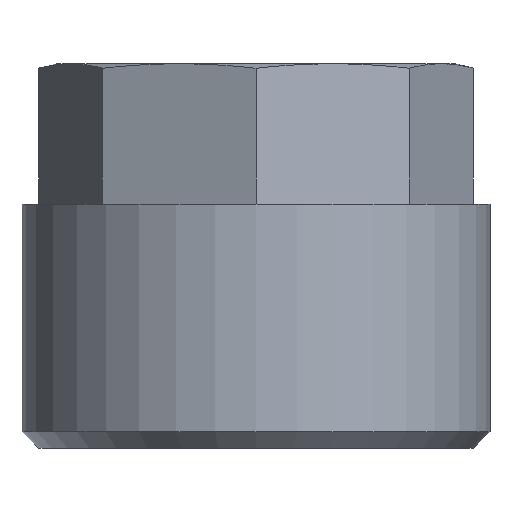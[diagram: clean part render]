
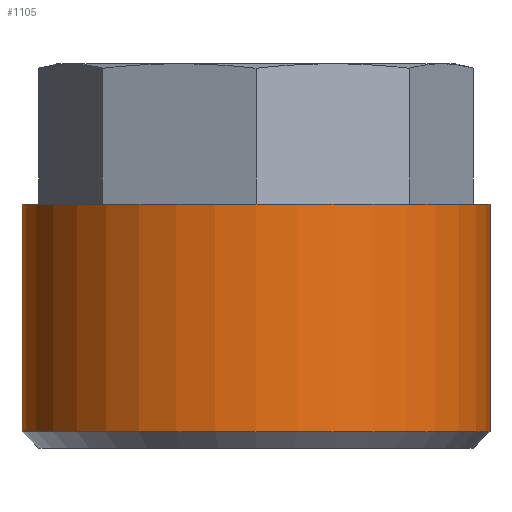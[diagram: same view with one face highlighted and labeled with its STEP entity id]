
A CAD part, front view. The second image highlights one B-rep face of the part: STEP entity #1105.
In plain terms, the highlighted cylindrical face has radius 7 mm (diameter 14 mm), a full revolution.
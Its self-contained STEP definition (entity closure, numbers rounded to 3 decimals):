
#585=CYLINDRICAL_SURFACE('',#1060,7.);
#678=ORIENTED_EDGE('',*,*,#785,.F.);
#679=ORIENTED_EDGE('',*,*,#786,.T.);
#701=CIRCLE('',#1059,7.);
#702=CIRCLE('',#1061,7.);
#735=VERTEX_POINT('',#1209);
#736=VERTEX_POINT('',#1212);
#785=EDGE_CURVE('',#735,#735,#701,.T.);
#786=EDGE_CURVE('',#736,#736,#702,.T.);
#818=EDGE_LOOP('',(#678));
#819=EDGE_LOOP('',(#679));
#856=FACE_BOUND('',#818,.T.);
#857=FACE_BOUND('',#819,.T.);
#984=DIRECTION('',(0.,1.,0.));
#985=DIRECTION('',(0.,0.,-7.));
#986=DIRECTION('',(0.,1.,0.));
#987=DIRECTION('',(1.,0.,0.));
#988=DIRECTION('',(0.,1.,0.));
#989=DIRECTION('',(0.,0.,7.));
#1059=AXIS2_PLACEMENT_3D('',#1210,#984,#985);
#1060=AXIS2_PLACEMENT_3D('',#1211,#986,#987);
#1061=AXIS2_PLACEMENT_3D('',#1213,#988,#989);
#1105=ADVANCED_FACE('',(#856,#857),#585,.T.);
#1209=CARTESIAN_POINT('',(26.989,21.895,-7.));
#1210=CARTESIAN_POINT('',(26.989,21.895,0.));
#1211=CARTESIAN_POINT('',(26.989,15.095,0.));
#1212=CARTESIAN_POINT('',(26.989,15.095,7.));
#1213=CARTESIAN_POINT('',(26.989,15.095,0.));
